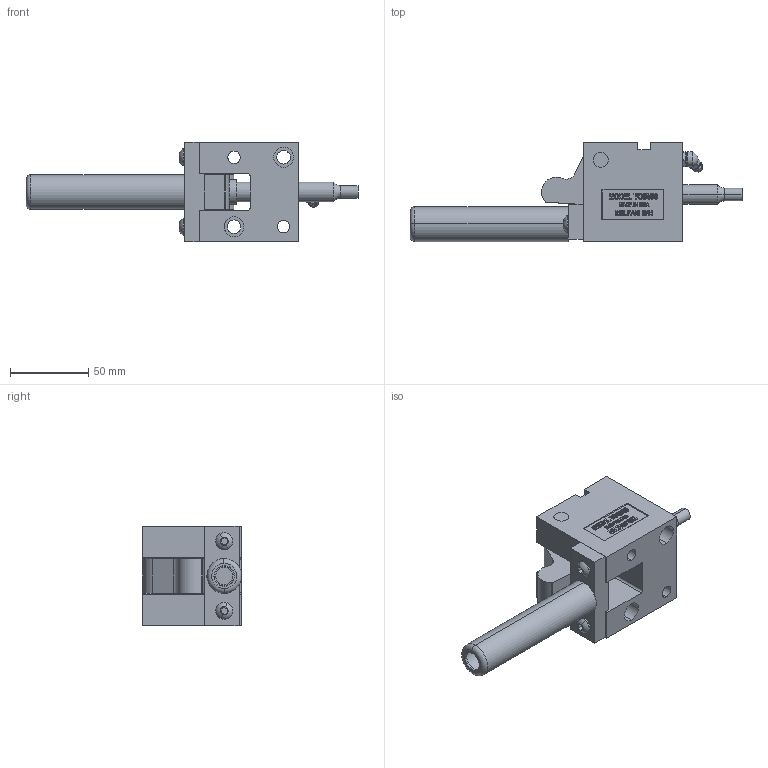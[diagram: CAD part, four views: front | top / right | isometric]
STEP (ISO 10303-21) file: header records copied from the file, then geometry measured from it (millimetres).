
FILE_DESCRIPTION (( 'STEP AP214' ), '1' );
FILE_NAME ('TOS50045-C.STEP', '2014-01-05T21:50:16', ( 'user' ), ( '' ), 'SwSTEP 2.0', 'SolidWorks 2009', '' );
FILE_SCHEMA (( 'AUTOMOTIVE_DESIGN' ));
Length unit declared in the file: inch
Products named in the file (10): OS500-CAGE; 500-O-STRAP; 500 PIVOT PIN; GREASE ZERK; 500-OFFSET TRIGGER; 1-4 SCREW; O-500-POINT; OS500-PUNCH; TOS500-BODY; TOS50045-C
Assembly tree (10 placements, depth 2):
  TOS50045-C
    500-OFFSET TRIGGER
    500-O-STRAP
    GREASE ZERK
    500 PIVOT PIN
    1-4 SCREW  x2
    OS500-CAGE
    OS500-PUNCH
    O-500-POINT
    TOS500-BODY
Bounding box: 212.6 x 63.5 x 63.5 mm (x, y, z)
Volume: 242354.4 mm3; surface area: 69347.8 mm2
Topology: 10 solids, 10 shells, 581 faces, 1499 edges, 986 vertices
Faces by surface type: plane 334, bspline 109, cylinder 86, cone 26, torus 22, sphere 4
Entity records: 24021 total; most frequent: CARTESIAN_POINT 10581, ORIENTED_EDGE 2910, DIRECTION 2293, EDGE_CURVE 1455, VERTEX_POINT 960, LINE 943, VECTOR 943, AXIS2_PLACEMENT_3D 675
